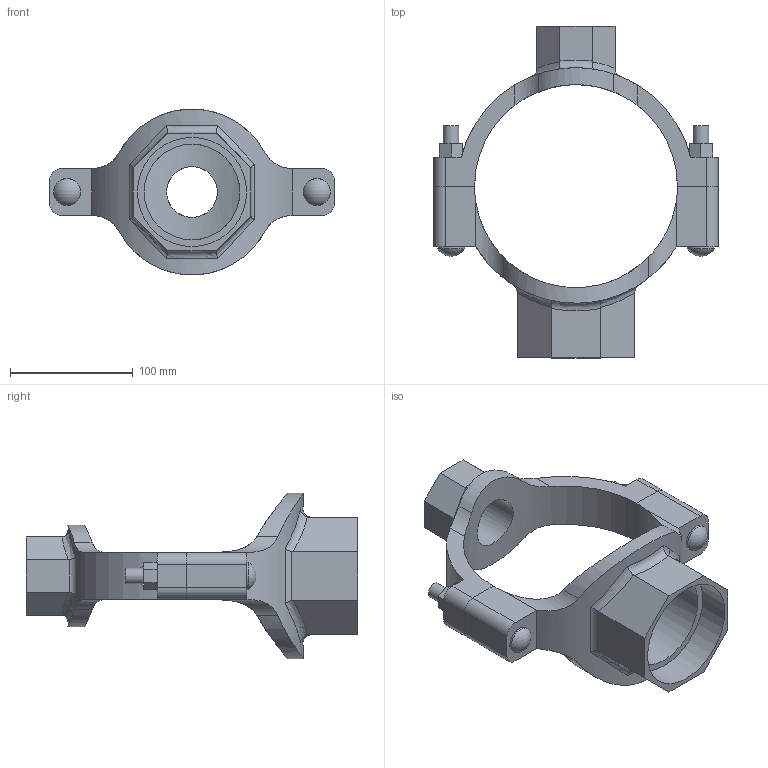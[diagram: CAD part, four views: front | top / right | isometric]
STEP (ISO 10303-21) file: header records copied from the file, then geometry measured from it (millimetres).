
FILE_DESCRIPTION(/* description */ ('VIC MECH-T BRANCH OUTLET CROSS STYLE 920N (THD)','CAx-IF Rec.Pracs.---Representation and Presentation of Product Manufacturing Information (PMI)---4.0---2014-10-13'),/* implementation_level */ '2;1');
FILE_NAME(/* name */ 'C:\Users\Vjadhav\AppData\Roaming\Autodesk\ApplicationPlugins\Back Up\Victaulic_IPS_Mechanical-Cross Outlet_Style 920N (FPT)\Victaulic_IPS_Mechanical-Cross Outlet_06.0 (165.1)x01.5x03.0 (150x40x80).stp',/* time_stamp */ '2020-08-06T19:00:03+06:00',/* author */ ('Vjadhav'),/* organization */ ('Victaulic'),/* preprocessor_version */ 'ST-DEVELOPER v17.2',/* originating_system */ 'Autodesk Inventor 2019',/* authorisation */ '');
FILE_SCHEMA (('AP242_MANAGED_MODEL_BASED_3D_ENGINEERING_MIM_LF { 1 0 10303 442 1 1 4 }'));
Length unit declared in the file: inch
Products named in the file (3): 920NT-06.0 (165.1)x01.5x03.0; 920NT-06.0 (165.1)x01.5x02.5 (76.1); 920T-06.0 (165.1)x03.0
Assembly tree (2 placements, depth 2):
  920NT-06.0 (165.1)x01.5x03.0
    920NT-06.0 (165.1)x01.5x02.5 (76.1)
    920T-06.0 (165.1)x03.0
Bounding box: 231.9 x 270 x 134.87 mm (x, y, z)
Volume: 652260.1 mm3; surface area: 150128.3 mm2
Topology: 2 solids, 2 shells, 130 faces, 344 edges, 232 vertices
Faces by surface type: plane 68, cylinder 48, bspline 8, torus 4, sphere 2
Full cylindrical faces by diameter (mm): 12.7 x4, 21.982 x2, 41.275 x1, 48.26 x1, 77.787 x1, 88.9 x1
Entity records: 5218 total; most frequent: CARTESIAN_POINT 1759, ORIENTED_EDGE 688, DIRECTION 638, EDGE_CURVE 344, VERTEX_POINT 232, AXIS2_PLACEMENT_3D 227, LINE 184, VECTOR 184
